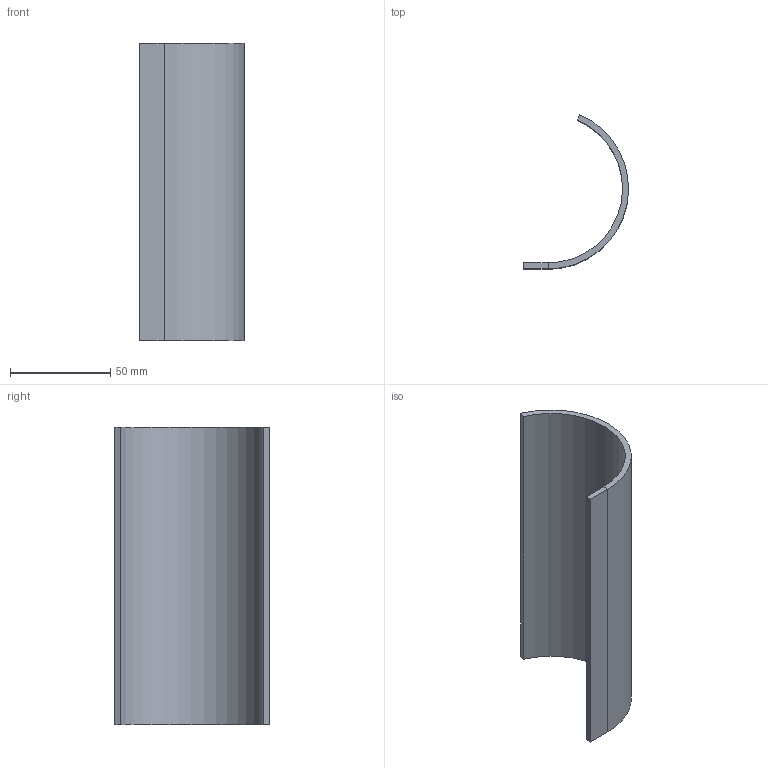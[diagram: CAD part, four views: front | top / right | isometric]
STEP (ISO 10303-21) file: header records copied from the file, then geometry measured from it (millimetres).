
FILE_DESCRIPTION (( 'STEP AP203' ), '1' );
FILE_NAME ('4899-4891_GRUPPO_AMMORTIZZATORE_POSTERIORE_DX_SX_Staffa.STEP', '2019-02-20T19:15:43', ( '' ), ( '' ), 'SwSTEP 2.0', 'SolidWorks 2019', '' );
FILE_SCHEMA (( 'CONFIG_CONTROL_DESIGN' ));
Length unit declared in the file: millimetre
Products named in the file (1): 4899-4891_GRUPPO_AMMORTIZZATORE_POSTERIORE_DX_SX_Staffa
Bounding box: 52.28 x 76.83 x 148 mm (x, y, z)
Volume: 52310.4 mm3; surface area: 36468.5 mm2
Topology: 1 solids, 1 shells, 10 faces, 20 edges, 12 vertices
Faces by surface type: plane 8, cylinder 2
Entity records: 333 total; most frequent: DIRECTION 46, CARTESIAN_POINT 43, ORIENTED_EDGE 40, EDGE_CURVE 20, VECTOR 16, LINE 16, AXIS2_PLACEMENT_3D 15, VERTEX_POINT 12
